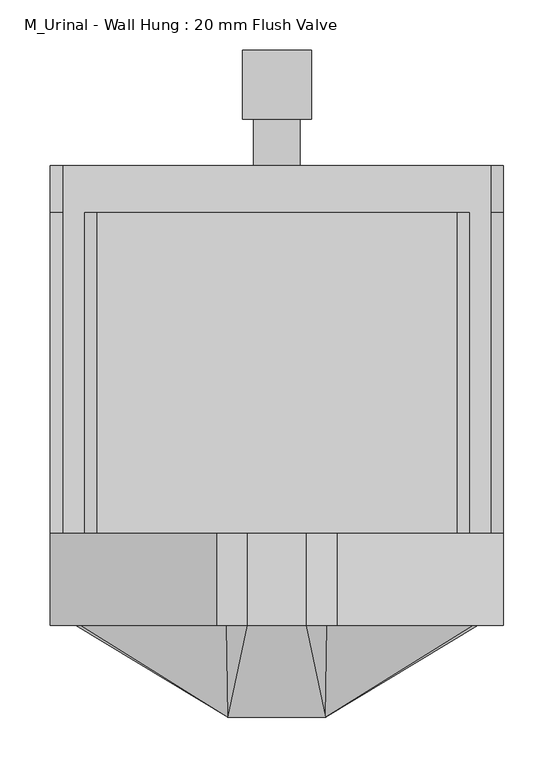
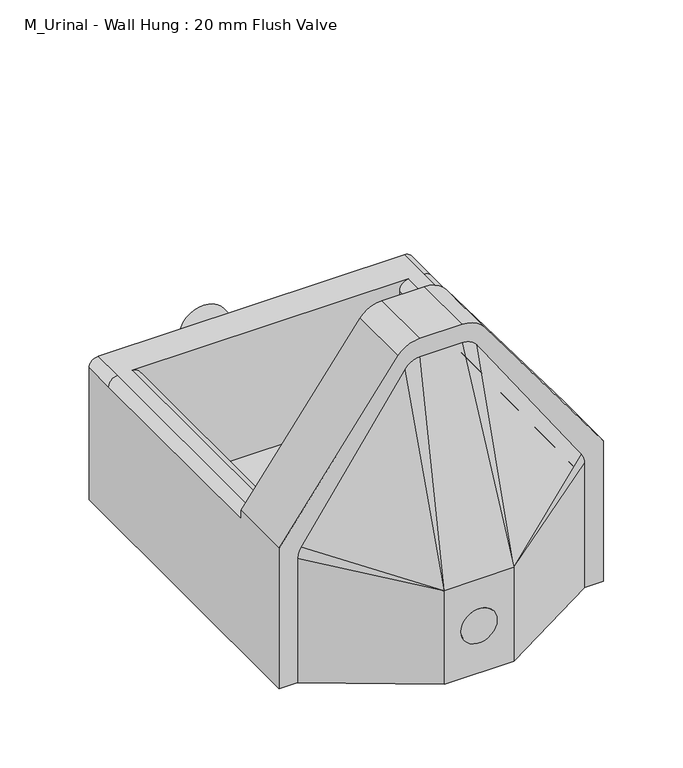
"""IFC4 building model written with IfcOpenShell, lengths in millimetres: flow terminal geometry, M_Urinal - Wall Hung : 20 mm Flush Valve."""

from ifc_helpers import new_model, si_unit, point, frame, frame_2d, origin, place, context, project, spatial, circle_curve, trimmed, segment, composite_curve, outline, extrude, source, transform, mapped, element, save
from ifc_brep_helpers import plane_surface, cylinder_surface, spline_surface, advanced_brep


def m_urinal_wall_hung_20_mm_flush_valve_97e050b2(model_context):
    return source(origin(), model_context, "Body", "SolidModel", [
        extrude(outline(composite_curve([segment(trimmed(circle_curve(frame_2d((68.659375, 0.0)), 25.0), [point((68.659375, -25.0))], [point((68.659375, 25.0))], False, "CARTESIAN"), True, "CONTINUOUS"), segment(trimmed(circle_curve(frame_2d((68.659375, 0.0)), 25.0), [point((68.659375, 25.0))], [point((68.659375, -25.0))], False, "CARTESIAN"), True, "CONTINUOUS")], self_intersect=False)), frame((0.0, -182.5625, 0.0), z_axis=(0.0, 1.0, 0.0), x_axis=(0.0, 0.0, 1.0)), (0.0, 0.0, 1.0), 91.28125),
        advanced_brep(
        [(225.0, -91.28125, 0.0), (-225.0, -91.28125, 0.0), (-225.0, 365.0, 0.0), (225.0, 365.0, 0.0), (-59.8511275, 0.0, 429.8407681), (-29.4318712, 0.0, 445.0), (29.4318712, 0.0, 445.0), (59.8511275, 0.0, 429.8407681), (225.0, 0.0, 206.08125), (225.0, 0.0, 193.38125), (212.3, 0.0, 206.08125), (191.6625, 0.0, 206.08125), (178.9625, 0.0, 193.38125), (178.9625, 0.0, 189.2096702), (31.5245701, 0.0, 398.9625), (-31.5245701, 0.0, 398.9625), (-178.9625, 0.0, 189.2096702), (-178.9625, 0.0, 193.38125), (-191.6625, 0.0, 206.08125), (-212.3, 0.0, 206.08125), (-225.0, 0.0, 193.38125), (-225.0, 0.0, 206.08125), (-225.0, -91.28125, 206.08125), (-225.0, 318.9625, 193.38125), (-225.0, 365.0, 193.38125), (225.0, -91.28125, 206.08125), (59.8511275, -91.28125, 429.8407681), (29.4318712, -91.28125, 445.0), (-29.4318712, -91.28125, 445.0), (-59.8511275, -91.28125, 429.8407681), (31.5245701, -91.28125, 398.9625), (182.5625, -91.28125, 184.0881239), (182.5625, -91.28125, 25.4), (-182.5625, -91.28125, 25.4), (-182.5625, -91.28125, 184.0881239), (-31.5245701, -91.28125, 398.9625), (225.0, 365.0, 193.38125), (225.0, 318.9625, 193.38125), (182.5625, 0.0, 184.0881239), (-182.5625, 0.0, 184.0881239), (-182.5625, 0.0, 25.4), (182.5625, 0.0, 25.4), (178.9625, 0.0, 25.4), (178.9625, 318.9625, 25.4), (-178.9625, 318.9625, 25.4), (-178.9625, 0.0, 25.4), (191.6625, 318.9625, 206.08125), (-191.6625, 318.9625, 206.08125), (-178.9625, 318.9625, 193.38125), (178.9625, 318.9625, 193.38125), (212.3, 365.0, 206.08125), (-212.3, 365.0, 206.08125), (-212.3, 318.9625, 206.08125), (212.3, 318.9625, 206.08125)],
        [
            (0, 1),
            (1, 2),
            (2, 3),
            (3, 0),
            (4, 5, circle_curve(frame((-29.4318712, 0.0, 406.9), z_axis=(0.0, 1.0, 0.0), x_axis=(1.0, 0.0, 0.0)), 38.1)),
            (5, 6),
            (6, 7, circle_curve(frame((29.4318712, 0.0, 406.9), z_axis=(0.0, 1.0, 0.0), x_axis=(1.0, 0.0, 0.0)), 38.1)),
            (7, 8),
            (8, 9),
            (9, 10, circle_curve(frame((212.3, 0.0, 193.38125), z_axis=(0.0, -1.0, 0.0), x_axis=(1.0, 0.0, 0.0)), 12.7)),
            (10, 11),
            (11, 12, circle_curve(frame((191.6625, 0.0, 193.38125), z_axis=(0.0, -1.0, 0.0), x_axis=(1.0, 0.0, 0.0)), 12.7)),
            (12, 13),
            (13, 14),
            (14, 15),
            (15, 16),
            (16, 17),
            (17, 18, circle_curve(frame((-191.6625, 0.0, 193.38125), z_axis=(0.0, -1.0, 0.0), x_axis=(1.0, 0.0, 0.0)), 12.7)),
            (18, 19),
            (19, 20, circle_curve(frame((-212.3, 0.0, 193.38125), z_axis=(0.0, -1.0, 0.0), x_axis=(1.0, 0.0, 0.0)), 12.7)),
            (20, 21),
            (21, 4),
            (1, 22),
            (22, 21),
            (20, 23),
            (23, 24),
            (24, 2),
            (0, 25),
            (25, 26),
            (26, 27, circle_curve(frame((29.4318712, -91.28125, 406.9), z_axis=(0.0, -1.0, 0.0), x_axis=(1.0, 0.0, 0.0)), 38.1)),
            (27, 28),
            (28, 29, circle_curve(frame((-29.4318712, -91.28125, 406.9), z_axis=(0.0, -1.0, 0.0), x_axis=(1.0, 0.0, 0.0)), 38.1)),
            (29, 22),
            (30, 31),
            (31, 32),
            (32, 33),
            (33, 34),
            (34, 35),
            (35, 30),
            (3, 36),
            (36, 37),
            (37, 9),
            (8, 25),
            (29, 4),
            (7, 26),
            (6, 27),
            (5, 28),
            (38, 31),
            (30, 14),
            (13, 38),
            (35, 15),
            (34, 39),
            (39, 16),
            (33, 40),
            (40, 39),
            (32, 41),
            (41, 42),
            (42, 43),
            (43, 44),
            (44, 45),
            (45, 40),
            (38, 41),
            (46, 47),
            (47, 48, circle_curve(frame((-191.6625, 318.9625, 193.38125), z_axis=(0.0, 1.0, 0.0), x_axis=(1.0, 0.0, 0.0)), 12.7)),
            (48, 44),
            (43, 49),
            (49, 46, circle_curve(frame((191.6625, 318.9625, 193.38125), z_axis=(0.0, 1.0, 0.0), x_axis=(1.0, 0.0, 0.0)), 12.7)),
            (50, 36, circle_curve(frame((212.3, 365.0, 193.38125), z_axis=(0.0, 1.0, 0.0), x_axis=(1.0, 0.0, 0.0)), 12.7)),
            (24, 51, circle_curve(frame((-212.3, 365.0, 193.38125), z_axis=(0.0, 1.0, 0.0), x_axis=(1.0, 0.0, 0.0)), 12.7)),
            (51, 50),
            (51, 52),
            (52, 19),
            (18, 47),
            (46, 11),
            (10, 53),
            (53, 50),
            (23, 52, circle_curve(frame((-212.3, 318.9625, 193.38125), z_axis=(0.0, 1.0, 0.0), x_axis=(1.0, 0.0, 0.0)), 12.7)),
            (53, 37, circle_curve(frame((212.3, 318.9625, 193.38125), z_axis=(0.0, 1.0, 0.0), x_axis=(1.0, 0.0, 0.0)), 12.7)),
            (13, 42),
            (45, 16),
            (49, 12),
            (48, 17),
        ],
        [
            plane_surface(frame((-225.0, 0.0, 0.0), z_axis=(0.0, 0.0, -1.0), x_axis=(1.0, 0.0, 0.0))),
            plane_surface(frame((225.0, 0.0, 206.08125), z_axis=(0.0, 1.0, 0.0), x_axis=(0.0, 0.0, -1.0))),
            plane_surface(frame((-225.0, 0.0, 206.08125), z_axis=(-1.0, 0.0, 0.0), x_axis=(0.0, 0.0, -1.0))),
            plane_surface(frame((-225.0, -91.28125, 206.08125), z_axis=(0.0, -1.0, 0.0), x_axis=(0.0, 0.0, -1.0))),
            plane_surface(frame((225.0, -91.28125, 206.08125), z_axis=(1.0, 0.0, 0.0), x_axis=(0.0, 0.0, -1.0))),
            plane_surface(frame((-59.8511275, -91.28125, 429.8407681), z_axis=(-0.8045860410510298, 0.0, 0.5938360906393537), x_axis=(0.0, 1.0, 0.0))),
            plane_surface(frame((225.0, -91.28125, 206.08125), z_axis=(0.8045860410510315, 0.0, 0.5938360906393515), x_axis=(0.0, 1.0, 0.0))),
            cylinder_surface(frame((29.4318712, 0.0, 406.9), z_axis=(0.0, -1.0, 0.0), x_axis=(1.0, 0.0, 0.0)), 38.1),
            plane_surface(frame((29.4318712, -91.28125, 445.0), z_axis=(0.0, 0.0, 1.0), x_axis=(0.0, 1.0, 0.0))),
            cylinder_surface(frame((-29.4318712, 0.0, 406.9), z_axis=(0.0, -1.0, 0.0), x_axis=(1.0, 0.0, 0.0)), 38.1),
            plane_surface(frame((182.5625, -91.28125, 184.0881239), z_axis=(-0.8181108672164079, 0.0, -0.5750605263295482), x_axis=(0.0, 1.0, 0.0))),
            plane_surface(frame((31.5245701, -91.28125, 398.9625), z_axis=(0.0, 0.0, -1.0), x_axis=(0.0, 1.0, 0.0))),
            plane_surface(frame((-31.5245701, -91.28125, 398.9625), z_axis=(0.8181108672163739, 0.0, -0.5750605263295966), x_axis=(0.0, 1.0, 0.0))),
            plane_surface(frame((-182.5625, -91.28125, 184.0881239), z_axis=(1.0, 0.0, 0.0), x_axis=(0.0, 1.0, 0.0))),
            plane_surface(frame((-182.5625, -91.28125, 25.4), z_axis=(0.0, 0.0, 1.0), x_axis=(0.0, 1.0, 0.0))),
            plane_surface(frame((182.5625, -91.28125, 25.4), z_axis=(-1.0, 0.0, 0.0), x_axis=(0.0, 1.0, 0.0))),
            plane_surface(frame((-212.3, 318.9625, 206.08125), z_axis=(0.0, -1.0, 0.0), x_axis=(-1.0, 0.0, 0.0))),
            plane_surface(frame((-212.3, 365.0, 206.08125), z_axis=(0.0, 1.0, 0.0), x_axis=(1.0, 0.0, 0.0))),
            plane_surface(frame((212.3, 318.9625, 206.08125), z_axis=(0.0, 0.0, 1.0), x_axis=(0.0, 1.0, 0.0))),
            cylinder_surface(frame((-212.3, 365.0, 193.38125), z_axis=(0.0, -1.0, 0.0), x_axis=(1.0, 0.0, 0.0)), 12.7),
            cylinder_surface(frame((212.3, 365.0, 193.38125), z_axis=(0.0, -1.0, 0.0), x_axis=(1.0, 0.0, 0.0)), 12.7),
            plane_surface(frame((-212.3, 0.0, 206.08125), z_axis=(0.0, -1.0, 0.0), x_axis=(-1.0, 0.0, 0.0))),
            cylinder_surface(frame((-212.3, 318.9625, 193.38125), z_axis=(0.0, -1.0, 0.0), x_axis=(1.0, 0.0, 0.0)), 12.7),
            cylinder_surface(frame((212.3, 318.9625, 193.38125), z_axis=(0.0, -1.0, 0.0), x_axis=(1.0, 0.0, 0.0)), 12.7),
            cylinder_surface(frame((191.6625, 318.9625, 193.38125), z_axis=(0.0, -1.0, 0.0), x_axis=(1.0, 0.0, 0.0)), 12.7),
            plane_surface(frame((178.9625, 0.0, 193.38125), z_axis=(-1.0, 0.0, 0.0), x_axis=(0.0, 1.0, 0.0))),
            plane_surface(frame((-178.9625, 0.0, 25.4), z_axis=(1.0, 0.0, 0.0), x_axis=(0.0, 1.0, 0.0))),
            cylinder_surface(frame((-191.6625, 318.9625, 193.38125), z_axis=(0.0, -1.0, 0.0), x_axis=(1.0, 0.0, 0.0)), 12.7),
        ],
        [
            (0, [[1, 2, 3, 4]]),
            (1, [[5, 6, 7, 8, 9, 10, 11, 12, 13, 14, 15, 16, 17, 18, 19, 20, 21, 22]]),
            (2, [[-2, 23, 24, -21, 25, 26, 27]]),
            (3, [[-1, 28, 29, 30, 31, 32, 33, -23], [34, 35, 36, 37, 38, 39]]),
            (4, [[-4, 40, 41, 42, -9, 43, -28]]),
            (5, [[-33, 44, -22, -24]]),
            (6, [[-29, -43, -8, 45]]),
            (7, [[-30, -45, -7, 46]]),
            (8, [[-31, -46, -6, 47]]),
            (9, [[-32, -47, -5, -44]]),
            (10, [[48, -34, 49, -14, 50]]),
            (11, [[-49, -39, 51, -15]]),
            (12, [[-51, -38, 52, 53, -16]]),
            (13, [[-52, -37, 54, 55]]),
            (14, [[-54, -36, 56, 57, 58, 59, 60, 61]]),
            (15, [[-48, 62, -56, -35]]),
            (16, [[63, 64, 65, -59, 66, 67]]),
            (17, [[68, -40, -3, -27, 69, 70]]),
            (18, [[-70, 71, 72, -19, 73, -63, 74, -11, 75, 76]]),
            (19, [[-69, -26, 77, -71]]),
            (20, [[-68, -76, 78, -41]]),
            (21, [[79, -57, -62, -50]]),
            (21, [[80, -53, -55, -61]]),
            (22, [[-72, -77, -25, -20]]),
            (23, [[-42, -78, -75, -10]]),
            (24, [[-74, -67, 81, -12]]),
            (25, [[-81, -66, -58, -79, -13]]),
            (26, [[-60, -65, 82, -17, -80]]),
            (27, [[-73, -18, -82, -64]]),
        ],
    ),
        extrude(outline(composite_curve([segment(trimmed(circle_curve(frame_2d((103.040625, 0.0)), 34.13125), [point((103.040625, -34.13125))], [point((103.040625, 34.13125))], False, "CARTESIAN"), True, "CONTINUOUS"), segment(trimmed(circle_curve(frame_2d((103.040625, 0.0)), 34.13125), [point((103.040625, 34.13125))], [point((103.040625, -34.13125))], False, "CARTESIAN"), True, "CONTINUOUS")], self_intersect=False)), frame((0.0, 411.0375, 0.0), z_axis=(0.0, 1.0, 0.0), x_axis=(0.0, 0.0, 1.0)), (0.0, 0.0, 1.0), 68.2625),
        advanced_brep(
        [(48.41875, -182.5625, 137.31875), (-48.41875, -182.5625, 137.31875), (-48.41875, -182.5625, 0.0), (48.41875, -182.5625, 0.0), (29.0508537, -91.28125, 419.6), (49.8308698, -91.28125, 408.8065374), (194.980016, -91.28125, 197.1883033), (199.6, -91.28125, 182.5817659), (199.6, -91.28125, 0.0), (-199.6, -91.28125, 0.0), (-199.6, -91.28125, 182.5817659), (-194.980016, -91.28125, 197.1883033), (-49.8308698, -91.28125, 408.8065374), (-29.0508537, -91.28125, 419.6)],
        [
            (0, 1),
            (1, 2),
            (2, 3),
            (3, 0),
            (4, 5, circle_curve(frame((29.0508537, -91.28125, 394.2), z_axis=(0.0, 1.0, 0.0), x_axis=(1.0, 0.0, 0.0)), 25.4)),
            (5, 6),
            (6, 7, circle_curve(frame((174.2, -91.28125, 182.5817659), z_axis=(0.0, 1.0, 0.0), x_axis=(1.0, 0.0, 0.0)), 25.4)),
            (7, 8),
            (8, 9),
            (9, 10),
            (10, 11, circle_curve(frame((-174.2, -91.28125, 182.5817659), z_axis=(0.0, 1.0, 0.0), x_axis=(1.0, 0.0, 0.0)), 25.4)),
            (11, 12),
            (12, 13, circle_curve(frame((-29.0508537, -91.28125, 394.2), z_axis=(0.0, 1.0, 0.0), x_axis=(1.0, 0.0, 0.0)), 25.4)),
            (13, 4),
            (13, 1),
            (0, 4),
            (12, 1),
            (11, 1),
            (10, 1),
            (9, 2),
            (8, 3),
            (7, 0),
            (6, 0),
            (5, 0),
        ],
        [
            plane_surface(frame((0.0, -182.5625, 68.659375), z_axis=(0.0, -1.0, 0.0), x_axis=(-1.0, 0.0, 0.0))),
            plane_surface(frame((0.0, -91.28125, 241.6353213), z_axis=(0.0, 1.0, 0.0), x_axis=(-1.0, 0.0, 0.0))),
            plane_surface(frame((0.0, -91.28125, 419.6), z_axis=(0.0, -0.9514889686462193, 0.30768286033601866), x_axis=(-1.0, 0.0, 0.0))),
            spline_surface(2, 1, [[(-29.0508537, -91.28125, 419.6), (-48.41875, -182.5625, 137.31875)], [(-42.244007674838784, -91.28125, 419.59999995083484), (-48.41875, -182.5625, 137.31875)], [(-49.8308698, -91.28125, 408.8065374), (-48.41875, -182.5625, 137.31875)]], [3, 3], [2, 2], [0.0, 1.0], [0.0, 1.0], weights=[[1.0, 1.0], [0.887429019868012, 0.887429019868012], [1.0, 1.0]]),
            plane_surface(frame((-122.4054429, -91.28125, 302.9974203), z_axis=(-0.41902243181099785, -0.8612879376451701, 0.2874078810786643), x_axis=(-0.5656330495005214, 0.0, -0.8246570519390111))),
            spline_surface(2, 1, [[(-194.980016, -91.28125, 197.1883033), (-48.41875, -182.5625, 137.31875)], [(-199.59999999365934, -91.28125, 190.61567498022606), (-48.41875, -182.5625, 137.31875)], [(-199.6, -91.28125, 182.5817659), (-48.41875, -182.5625, 137.31875)]], [3, 3], [2, 2], [0.0, 1.0], [0.0, 1.0], weights=[[1.0, 1.0], [0.9534439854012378, 0.9534439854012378], [1.0, 1.0]]),
            plane_surface(frame((-199.6, -91.28125, 91.290883), z_axis=(-0.5168774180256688, -0.856059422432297, 0.0), x_axis=(0.0, 0.0, -1.0))),
            plane_surface(frame((0.0, -91.28125, 0.0), z_axis=(0.0, 0.0, -1.0), x_axis=(1.0, 0.0, 0.0))),
            plane_surface(frame((199.6, -91.28125, 91.290883), z_axis=(0.516877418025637, -0.8560594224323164, 0.0), x_axis=(0.0, 0.0, 1.0))),
            spline_surface(2, 1, [[(199.6, -91.28125, 182.5817659), (48.41875, -182.5625, 137.31875)], [(199.60000000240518, -91.28125, 190.61567498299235), (48.41875, -182.5625, 137.31875)], [(194.980016, -91.28125, 197.1883033), (48.41875, -182.5625, 137.31875)]], [3, 3], [2, 2], [0.0, 1.0], [0.0, 1.0], weights=[[1.0, 1.0], [0.9534439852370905, 0.9534439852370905], [1.0, 1.0]]),
            plane_surface(frame((122.4054429, -91.28125, 302.9974203), z_axis=(0.41902243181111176, -0.8612879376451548, 0.28740788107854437), x_axis=(-0.5656330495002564, 0.0, 0.8246570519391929))),
            spline_surface(2, 1, [[(49.8308698, -91.28125, 408.8065374), (48.41875, -182.5625, 137.31875)], [(42.244007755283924, -91.28125, 419.6000001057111), (48.41875, -182.5625, 137.31875)], [(29.0508537, -91.28125, 419.6), (48.41875, -182.5625, 137.31875)]], [3, 3], [2, 2], [0.0, 1.0], [0.0, 1.0], weights=[[1.0, 1.0], [0.8874290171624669, 0.8874290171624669], [1.0, 1.0]]),
        ],
        [
            (0, [[1, 2, 3, 4]]),
            (1, [[5, 6, 7, 8, 9, 10, 11, 12, 13, 14]]),
            (2, [[-14, 15, -1, 16]]),
            (3, [[-13, 17, -15]]),
            (4, [[-12, 18, -17]]),
            (5, [[-11, 19, -18]]),
            (6, [[-10, 20, -2, -19]]),
            (7, [[-9, 21, -3, -20]]),
            (8, [[-8, 22, -4, -21]]),
            (9, [[-7, 23, -22]]),
            (10, [[-6, 24, -23]]),
            (11, [[-5, -16, -24]]),
        ],
    ),
        extrude(outline(composite_curve([segment(trimmed(circle_curve(frame_2d((103.040625, 0.0)), 23.01875), [point((103.040625, -23.01875))], [point((103.040625, 23.01875))], False, "CARTESIAN"), True, "CONTINUOUS"), segment(trimmed(circle_curve(frame_2d((103.040625, 0.0)), 23.01875), [point((103.040625, 23.01875))], [point((103.040625, -23.01875))], False, "CARTESIAN"), True, "CONTINUOUS")], self_intersect=False)), frame((0.0, 365.0, 0.0), z_axis=(0.0, 1.0, 0.0), x_axis=(0.0, 0.0, 1.0)), (0.0, 0.0, 1.0), 46.0375),
    ])


if __name__ == "__main__":
    model = new_model("IFC4")
    model_context = context("Model", 3, world=origin())
    ifc_project = project(units=[si_unit("LENGTHUNIT", "METRE", prefix="MILLI")], contexts=[model_context])
    site = spatial("IfcSite", under=ifc_project)
    building = spatial("IfcBuilding", under=site)
    placement = place(None, origin())
    m_urinal_wall_hung_20_mm_flush_valve_shape = m_urinal_wall_hung_20_mm_flush_valve_97e050b2(model_context)
    element("IfcFlowTerminal", 1, ObjectType="M_Urinal - Wall Hung : 20 mm Flush Valve", at=placement, inside=building, context=model_context, shape_type="MappedRepresentation", body=[
        mapped(m_urinal_wall_hung_20_mm_flush_valve_shape, transform((0.0, 0.0, 0.0), x_axis=(1.0, 0.0, 0.0), y_axis=(0.0, 1.0, 0.0), z_axis=(0.0, 0.0, 1.0))),
    ])
    save(model, "model.ifc")
